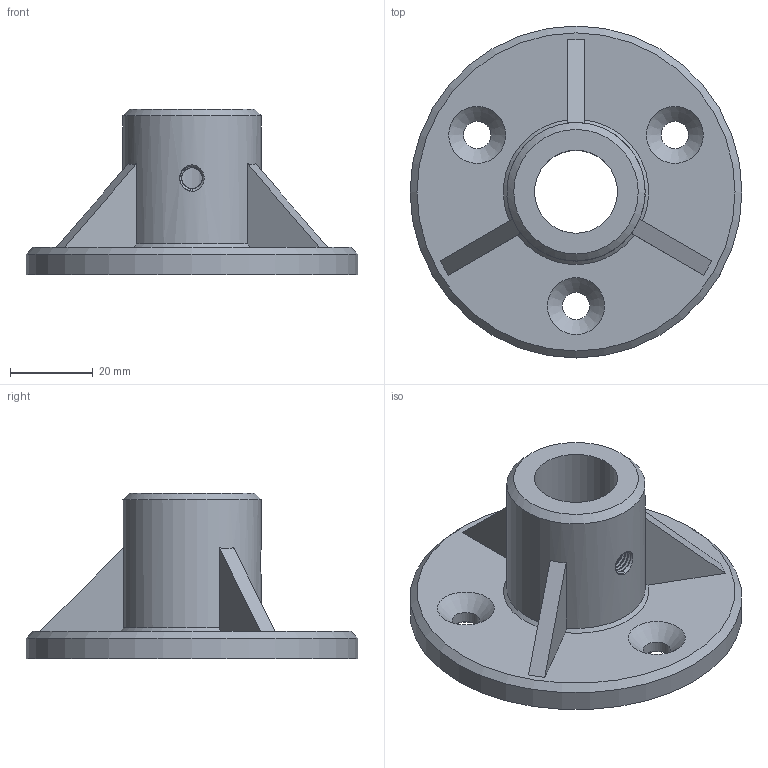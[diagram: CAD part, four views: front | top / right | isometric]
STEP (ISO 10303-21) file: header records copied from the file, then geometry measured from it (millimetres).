
FILE_DESCRIPTION(/* description */ (''),/* implementation_level */ '2;1');
FILE_NAME(/* name */ '20MM_M6.stp',/* time_stamp */ '2024-11-18T16:28:21+01:00',/* author */ (''),/* organization */ (''),/* preprocessor_version */ 'ST-DEVELOPER v20',/* originating_system */ 'SIEMENS PLM Software NX2406.4001',/* authorisation */ '');
FILE_SCHEMA (('AUTOMOTIVE_DESIGN { 1 0 10303 214 3 1 1 1 }'));
Length unit declared in the file: millimetre
Products named in the file (1): 20MM_M6
Bounding box: 80 x 80 x 40 mm (x, y, z)
Volume: 50602.2 mm3; surface area: 18010.9 mm2
Topology: 1 solids, 1 shells, 36 faces, 91 edges, 58 vertices
Faces by surface type: plane 13, cone 13, cylinder 8, bspline 2
Full cylindrical faces by diameter (mm): 6.6 x3, 20 x1, 33.333 x1, 80 x1
Entity records: 2933 total; most frequent: CARTESIAN_POINT 2112, DIRECTION 159, ORIENTED_EDGE 146, EDGE_CURVE 73, AXIS2_PLACEMENT_3D 68, EDGE_LOOP 62, VERTEX_POINT 55, FACE_BOUND 44
